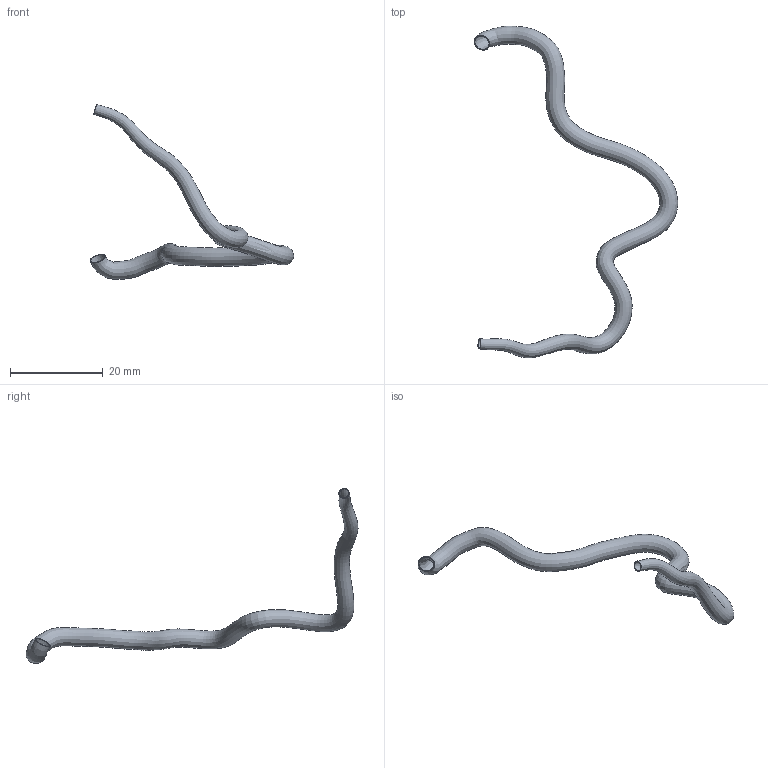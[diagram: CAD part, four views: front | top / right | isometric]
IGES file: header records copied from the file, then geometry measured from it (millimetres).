
Global section: file name: C:\Documents and Settings\Administrator\Desktop\FDA Bifurcation win\RawData_for_IGES\HRCA_Data\19990218.103146\IGES\19990218.103146.RCA.SEG.ED.igs; native system: Rhinoceros ( May 19 2006 ); preprocessor: Trout Lake IGES 012 May 19 2006; date: 100728.194752; units: centimetre
Bounding box: 43.84 x 71.47 x 37.67 mm (x, y, z)
Surface area: 3155.1 mm2 (no closed solid volume)
Topology: 0 solids, 0 shells, 4 faces, 12 edges, 8 vertices
Faces by surface type: bspline 4
